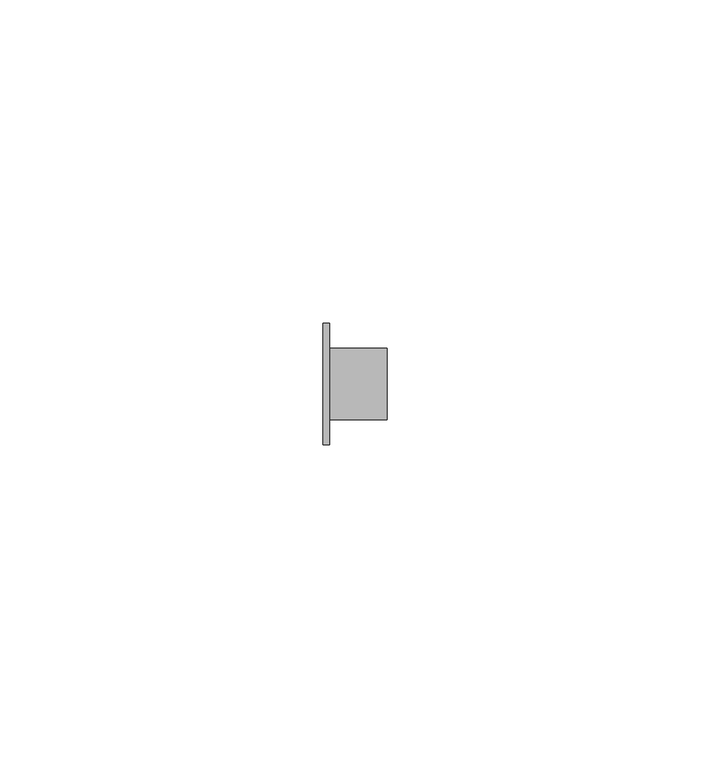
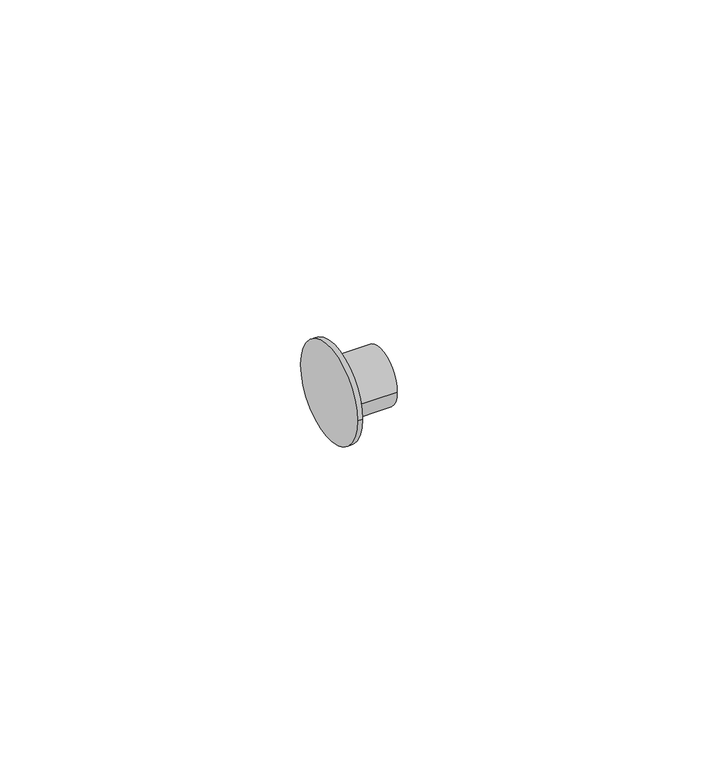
"""IFC4 building model written with IfcOpenShell, lengths in millimetres: pipe fitting geometry, Bucha de redução reta - Soldada - CU : Padrão."""

import ifcopenshell
import ifcopenshell.guid

model = None  # the IFC model being written
_history = None  # IfcOwnerHistory: only IFC2X3 demands one
_inside = {}  # id of a spatial element -> (the spatial element, [elements in it])
_under = {}  # id of a project, library or spatial element -> (it, [spatial elements below it])
_declared = {}  # id of a project -> (the project, [libraries it declares])
_typed = {}  # id of a type object -> (the type object, [elements of that type])
_made_of = {}  # id of a material, layer set ... -> (it, [elements and type objects made of it])


def new_model(schema):
    """Start an empty IFC model of exactly this schema.

    Asked for "IFC4X3", IfcOpenShell would pick the latest addendum, in which some entities
    have other attributes; the version numbers below select the first issue.
    IFC2X3 requires an IfcOwnerHistory on every rooted entity: one is made here for all.
    """
    global model, _history
    if schema == "IFC4X3":
        model = ifcopenshell.file(schema_version=(4, 3, 0, 0))
    else:
        model = ifcopenshell.file(schema=schema)
    _inside.clear()
    _under.clear()
    _declared.clear()
    _typed.clear()
    _made_of.clear()
    _history = None
    if model.schema == "IFC2X3":
        org = make("IfcOrganization", Name="unknown")
        user = make(
            "IfcPersonAndOrganization",
            ThePerson=make("IfcPerson", FamilyName="unknown"),
            TheOrganization=org,
        )
        app = make(
            "IfcApplication",
            ApplicationDeveloper=org,
            Version="unknown",
            ApplicationFullName="unknown",
            ApplicationIdentifier="unknown",
        )
        _history = make(
            "IfcOwnerHistory",
            OwningUser=user,
            OwningApplication=app,
            ChangeAction="ADDED",
            CreationDate=0,
        )
    return model


def make(cls, **values):
    """One entity of the class cls with the attributes given. An attribute that is None is left unset."""
    return model.create_entity(
        cls, **{name: value for name, value in values.items() if value is not None}
    )


def rooted(cls, **values):
    """An entity with a GlobalId (a new one), such as an element, a storey or a relation."""
    return make(cls, GlobalId=ifcopenshell.guid.new(), OwnerHistory=_history, **values)


def si_unit(unit_type, name, prefix=None):
    """IfcSIUnit, for example si_unit("LENGTHUNIT", "METRE", prefix="MILLI")."""
    return make("IfcSIUnit", UnitType=unit_type, Prefix=prefix, Name=name)


def assignment(units):
    """IfcUnitAssignment: the units of a project."""
    return None if units is None else make("IfcUnitAssignment", Units=units)


def point(xyz):
    """IfcCartesianPoint."""
    return None if xyz is None else make("IfcCartesianPoint", Coordinates=xyz)


def direction(xyz):
    """IfcDirection."""
    return None if xyz is None else make("IfcDirection", DirectionRatios=xyz)


def frame(location, z_axis=None, x_axis=None):
    """IfcAxis2Placement3D, a coordinate frame: its origin and axes. An axis left out is left unset."""
    return make(
        "IfcAxis2Placement3D",
        Location=point(location),
        Axis=direction(z_axis),
        RefDirection=direction(x_axis),
    )


def origin():
    """The frame at (0, 0, 0) with its axes left unset."""
    return frame((0.0, 0.0, 0.0))


def place(relative_to, where):
    """IfcLocalPlacement: puts the frame where relative to a parent placement (None: the world)."""
    return make(
        "IfcLocalPlacement", PlacementRelTo=relative_to, RelativePlacement=where
    )


def context(
    kind, dimensions, precision=None, world=None, true_north=None, identifier=None
):
    """IfcGeometricRepresentationContext, for example the 3D "Model" context."""
    return make(
        "IfcGeometricRepresentationContext",
        ContextIdentifier=identifier,
        ContextType=kind,
        CoordinateSpaceDimension=dimensions,
        Precision=precision,
        WorldCoordinateSystem=world,
        TrueNorth=true_north,
    )


def project(units=None, contexts=None):
    """IfcProject with its units and contexts."""
    return rooted(
        "IfcProject",
        Name="project",
        RepresentationContexts=contexts,
        UnitsInContext=assignment(units),
    )


def spatial(cls, under=None, at=None, **own):
    """A site, building, storey or space (cls), placed at a placement, below another one or the project."""
    s = rooted(cls, ObjectPlacement=at, **own)
    if under is not None:
        _under.setdefault(under.id(), (under, []))[1].append(s)
    return s


def circle_curve(where, radius):
    """IfcCircle in the frame where."""
    return make("IfcCircle", Position=where, Radius=radius)


def shape(context_of_items, identifier, shape_type, items):
    """IfcShapeRepresentation: the items that make up one representation, for example the "Body"."""
    return make(
        "IfcShapeRepresentation",
        ContextOfItems=context_of_items,
        RepresentationIdentifier=identifier,
        RepresentationType=shape_type,
        Items=items,
    )


def source(mapping_origin, context_of_items, identifier, shape_type, items):
    """IfcRepresentationMap: a shape defined once, which mapped items show again and again."""
    return make(
        "IfcRepresentationMap",
        MappingOrigin=mapping_origin,
        MappedRepresentation=shape(context_of_items, identifier, shape_type, items),
    )


def transform(
    local_origin,
    x_axis=None,
    y_axis=None,
    z_axis=None,
    scale=None,
    scale2=None,
    scale3=None,
    uniform=True,
):
    """IfcCartesianTransformationOperator3D, or its non-uniform kind. x_axis, y_axis, z_axis: its Axis1, 2, 3."""
    if uniform:
        return make(
            "IfcCartesianTransformationOperator3D",
            Axis1=direction(x_axis),
            Axis2=direction(y_axis),
            LocalOrigin=point(local_origin),
            Scale=scale,
            Axis3=direction(z_axis),
        )
    return make(
        "IfcCartesianTransformationOperator3DnonUniform",
        Axis1=direction(x_axis),
        Axis2=direction(y_axis),
        LocalOrigin=point(local_origin),
        Scale=scale,
        Axis3=direction(z_axis),
        Scale2=scale2,
        Scale3=scale3,
    )


def mapped(mapping_source, mapping_target):
    """IfcMappedItem: shows the shape of a source again, moved by a transform."""
    return make(
        "IfcMappedItem", MappingSource=mapping_source, MappingTarget=mapping_target
    )


def made_of(thing, what):
    """Note that an element or type object is made of a material, layer set ...; save() writes the relation."""
    if what is not None:
        _made_of.setdefault(what.id(), (what, []))[1].append(thing)
    return thing


def element(
    cls,
    number,
    at=None,
    inside=None,
    cuts=None,
    type_object=None,
    material=None,
    context=None,
    identifier="Body",
    shape_type=None,
    held_by="IfcProductDefinitionShape",
    body=None,
    shapes=None,
    **own,
):
    """One element of the class cls, such as IfcWall. Its Tag is "e" and its number.

    at: its placement. inside: the storey or other place that contains it. cuts: it is an
    opening in that element (IfcRelVoidsElement). A single representation is given by context,
    identifier, shape_type and body (its items); several are given by shapes. held_by: the class
    of the entity that holds the representations. save() writes the other relations.
    """
    e = rooted(cls, Tag="e%d" % number, ObjectPlacement=at, **own)
    if body is not None:
        shapes = [shape(context, identifier, shape_type, body)]
    if shapes is not None:
        e.Representation = make(held_by, Representations=shapes)
    if inside is not None:
        _inside.setdefault(inside.id(), (inside, []))[1].append(e)
    if cuts is not None:
        rooted(
            "IfcRelVoidsElement", RelatingBuildingElement=cuts, RelatedOpeningElement=e
        )
    if type_object is not None:
        _typed.setdefault(type_object.id(), (type_object, []))[1].append(e)
    return made_of(e, material)


def aggregate(whole, parts):
    """IfcRelAggregates: a whole, such as a stair, and the parts it consists of."""
    return rooted("IfcRelAggregates", RelatingObject=whole, RelatedObjects=parts)


def save(model, path):
    """Write the relations noted so far, then the file.

    IfcRelAggregates (storeys below a building ...), IfcRelContainedInSpatialStructure (elements
    in a storey), IfcRelDefinesByType, IfcRelAssociatesMaterial and IfcRelDeclares: one each for
    every whole, place, type object, material and project.
    """
    for whole, parts in _under.values():
        aggregate(whole, parts)
    for where, things in _inside.values():
        rooted(
            "IfcRelContainedInSpatialStructure",
            RelatedElements=things,
            RelatingStructure=where,
        )
    for kind, things in _typed.values():
        rooted("IfcRelDefinesByType", RelatedObjects=things, RelatingType=kind)
    for what, things in _made_of.values():
        rooted("IfcRelAssociatesMaterial", RelatedObjects=things, RelatingMaterial=what)
    for by, libraries in _declared.values():
        rooted("IfcRelDeclares", RelatingContext=by, RelatedDefinitions=libraries)
    model.write(path)


def plane_surface(at):
    """IfcPlane: the flat surface through the origin of the frame at, square to its z axis."""
    return make("IfcPlane", Position=at)


def cylinder_surface(at, radius):
    """IfcCylindricalSurface: all points at the distance radius from the z axis of the frame at."""
    return make("IfcCylindricalSurface", Position=at, Radius=radius)


def advanced_brep(points, edges, surfaces, faces):
    """IfcAdvancedBrep: a solid bounded by faces that lie on surfaces and meet in shared edges.

    An edge is (start, end): straight between two places in points (the first is 0);
    or (start, end, curve); or (start, end, curve, False) where it runs against its curve.
    A face is (place in surfaces, loops), or (place, loops, False) where it looks against
    its surface's normal. A loop lists edges by number (the first is 1), with a minus sign
    where the edge is run from its end to its start. The first loop is the outer one.
    """
    corners = [point(p) for p in points]
    vertices = [make("IfcVertexPoint", VertexGeometry=c) for c in corners]
    made = []
    for start, end, *more in edges:
        made.append(
            make(
                "IfcEdgeCurve",
                EdgeStart=vertices[start],
                EdgeEnd=vertices[end],
                EdgeGeometry=more[0] if more else make("IfcPolyline", Points=[corners[start], corners[end]]),
                SameSense=more[1] if len(more) > 1 else True,
            )
        )
    hull = []
    for where, loops, *sense in faces:
        bounds = []
        for j, loop in enumerate(loops):
            ring = [make("IfcOrientedEdge", EdgeElement=made[abs(k) - 1], Orientation=k > 0) for k in loop]
            bounds.append(
                make(
                    "IfcFaceOuterBound" if j == 0 else "IfcFaceBound",
                    Bound=make("IfcEdgeLoop", EdgeList=ring),
                    Orientation=True,
                )
            )
        hull.append(make("IfcAdvancedFace", Bounds=bounds, FaceSurface=surfaces[where], SameSense=sense[0] if sense else True))
    return make("IfcAdvancedBrep", Outer=make("IfcClosedShell", CfsFaces=hull))


def pipe_fitting_c99c78b2(model_context):
    return source(origin(), model_context, "Body", "AdvancedBrep", [
        advanced_brep(
        [(0.0, -9.425, 0.0), (0.0, 9.425, 0.0), (1.0, -9.425, 0.0), (1.0, 9.425, 0.0), (1.0, -5.5, 0.0), (1.0, 5.5, 0.0), (9.9, -5.5, 0.0), (9.9, 5.5, 0.0)],
        [
            (0, 1, circle_curve(frame((0.0, 0.0, 0.0), z_axis=(-1.0, 0.0, 0.0), x_axis=(0.0, 1.0, 0.0)), 9.425)),
            (1, 0, circle_curve(frame((0.0, 0.0, 0.0), z_axis=(-1.0, 0.0, 0.0), x_axis=(0.0, 1.0, 0.0)), 9.425)),
            (2, 3, circle_curve(frame((1.0, 0.0, 0.0), z_axis=(1.0, 0.0, 0.0), x_axis=(0.0, 1.0, 0.0)), 9.425)),
            (3, 2, circle_curve(frame((1.0, 0.0, 0.0), z_axis=(1.0, 0.0, 0.0), x_axis=(0.0, 1.0, 0.0)), 9.425)),
            (4, 5, circle_curve(frame((1.0, 0.0, 0.0), z_axis=(-1.0, 0.0, 0.0), x_axis=(0.0, 1.0, 0.0)), 5.5)),
            (5, 4, circle_curve(frame((1.0, 0.0, 0.0), z_axis=(-1.0, 0.0, 0.0), x_axis=(0.0, 1.0, 0.0)), 5.5)),
            (0, 2),
            (3, 1),
            (6, 7, circle_curve(frame((9.9, 0.0, 0.0), z_axis=(1.0, 0.0, 0.0), x_axis=(0.0, 1.0, 0.0)), 5.5)),
            (7, 6, circle_curve(frame((9.9, 0.0, 0.0), z_axis=(1.0, 0.0, 0.0), x_axis=(0.0, 1.0, 0.0)), 5.5)),
            (7, 5),
            (4, 6),
        ],
        [
            plane_surface(frame((0.0, 0.0, 0.0), z_axis=(-1.0, 0.0, 0.0), x_axis=(0.0, 0.0, 1.0))),
            plane_surface(frame((1.0, 0.0, 0.0), z_axis=(1.0, 0.0, 0.0), x_axis=(0.0, 0.0, 1.0))),
            cylinder_surface(frame((0.0, 0.0, 0.0), z_axis=(-1.0, 0.0, 0.0), x_axis=(0.0, 1.0, 0.0)), 9.425),
            plane_surface(frame((9.9, 0.0, 0.0), z_axis=(1.0, 0.0, 0.0), x_axis=(0.0, 0.0, 1.0))),
            cylinder_surface(frame((1.0, 0.0, 0.0), z_axis=(-1.0, 0.0, 0.0), x_axis=(0.0, 1.0, 0.0)), 5.5),
        ],
        [
            (0, [[1, 2]]),
            (1, [[3, 4], [5, 6]]),
            (2, [[-1, 7, -4, 8]]),
            (2, [[-2, -8, -3, -7]]),
            (3, [[9, 10]]),
            (4, [[-10, 11, -5, 12]]),
            (4, [[-9, -12, -6, -11]]),
        ],
    ),
    ])


if __name__ == "__main__":
    model = new_model("IFC4")
    model_context = context("Model", 3, world=origin())
    ifc_project = project(units=[si_unit("LENGTHUNIT", "METRE", prefix="MILLI")], contexts=[model_context])
    site = spatial("IfcSite", under=ifc_project)
    building = spatial("IfcBuilding", under=site)
    placement = place(None, origin())
    pipe_fitting_shape = pipe_fitting_c99c78b2(model_context)
    element("IfcPipeFitting", 1, ObjectType="Bucha de redução reta - Soldada - CU : Padrão", at=placement, inside=building, context=model_context, shape_type="MappedRepresentation", body=[
        mapped(pipe_fitting_shape, transform((0.0, 0.0, 0.0), x_axis=(1.0, 0.0, 0.0), y_axis=(0.0, 1.0, 0.0), z_axis=(0.0, 0.0, 1.0))),
    ])
    save(model, "model.ifc")
